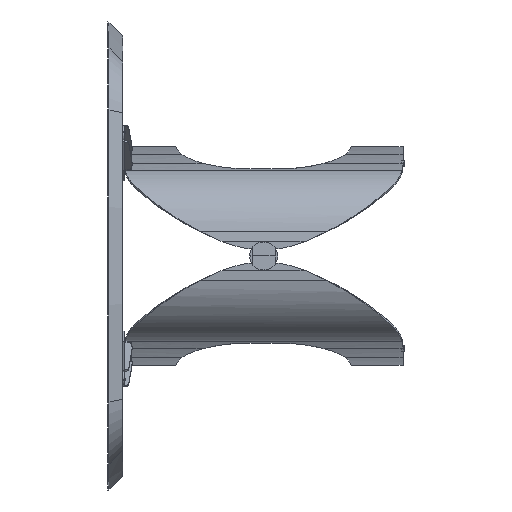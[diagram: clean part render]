
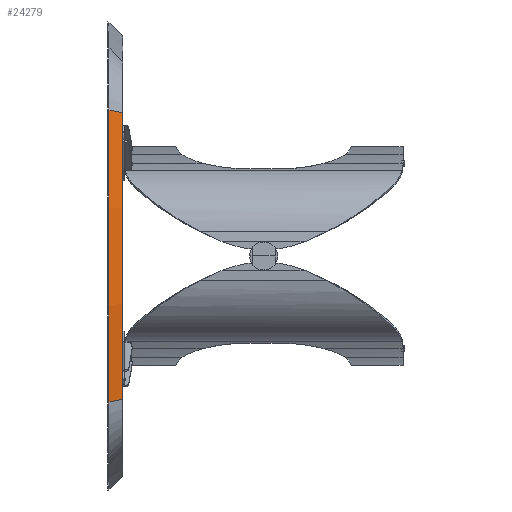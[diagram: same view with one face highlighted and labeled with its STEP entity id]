
A CAD part, left-side view. The second image highlights one B-rep face of the part: STEP entity #24279.
In plain terms, the highlighted conical face has half-angle 45 degrees and reference radius 1900 mm.
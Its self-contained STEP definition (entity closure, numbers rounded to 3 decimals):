
#133 = CARTESIAN_POINT ( 'NONE',  ( 400., 35., 0. ) ) ;
#2881 = ORIENTED_EDGE ( 'NONE', *, *, #17317, .T. ) ;
#3392 = ORIENTED_EDGE ( 'NONE', *, *, #16277, .F. ) ;
#3971 = CARTESIAN_POINT ( 'NONE',  ( -1428.519, 0., 367.072 ) ) ;
#4186 = AXIS2_PLACEMENT_3D ( 'NONE', #11990, #7650, #18458 ) ;
#4621 = VECTOR ( 'NONE', #23137, 1000. ) ;
#6013 = CARTESIAN_POINT ( 'NONE',  ( -1428.519, 0., -367.072 ) ) ;
#6840 = EDGE_CURVE ( 'NONE', #18212, #10293, #12470, .T. ) ;
#7204 = CARTESIAN_POINT ( 'NONE',  ( -1428.807, 0.293, -367.13 ) ) ;
#7344 = EDGE_CURVE ( 'NONE', #18212, #21552, #11794, .T. ) ;
#7650 = DIRECTION ( 'NONE',  ( 0., 1., 0. ) ) ;
#9367 = CONICAL_SURFACE ( 'NONE', #25035, 1900., 0.785 ) ;
#10293 = VERTEX_POINT ( 'NONE', #14355 ) ;
#11492 = CIRCLE ( 'NONE', #21361, 1900. ) ;
#11794 = CIRCLE ( 'NONE', #4186, 1865.293 ) ;
#11990 = CARTESIAN_POINT ( 'NONE',  ( 400., 0.293, 0. ) ) ;
#12470 = LINE ( 'NONE', #6013, #4621 ) ;
#12517 = DIRECTION ( 'NONE',  ( -0.693, 0.707, 0.139 ) ) ;
#12578 = CARTESIAN_POINT ( 'NONE',  ( 400., 35., 0. ) ) ;
#12895 = DIRECTION ( 'NONE',  ( 0., 1., 0. ) ) ;
#14355 = CARTESIAN_POINT ( 'NONE',  ( -1462.835, 35., -373.961 ) ) ;
#16277 = EDGE_CURVE ( 'NONE', #10293, #25647, #11492, .T. ) ;
#16951 = DIRECTION ( 'NONE',  ( 0., 1., 0. ) ) ;
#17236 = FACE_OUTER_BOUND ( 'NONE', #19562, .T. ) ;
#17317 = EDGE_CURVE ( 'NONE', #21552, #25647, #23186, .T. ) ;
#18212 = VERTEX_POINT ( 'NONE', #7204 ) ;
#18360 = CARTESIAN_POINT ( 'NONE',  ( -1462.835, 35., 373.961 ) ) ;
#18458 = DIRECTION ( 'NONE',  ( 0., 0., 1. ) ) ;
#19562 = EDGE_LOOP ( 'NONE', ( #26942, #23422, #2881, #3392 ) ) ;
#19772 = DIRECTION ( 'NONE',  ( 0., 0., 1. ) ) ;
#21361 = AXIS2_PLACEMENT_3D ( 'NONE', #133, #12895, #19772 ) ;
#21552 = VERTEX_POINT ( 'NONE', #25952 ) ;
#21852 = VECTOR ( 'NONE', #12517, 1000. ) ;
#23137 = DIRECTION ( 'NONE',  ( -0.693, 0.707, -0.139 ) ) ;
#23186 = LINE ( 'NONE', #3971, #21852 ) ;
#23422 = ORIENTED_EDGE ( 'NONE', *, *, #7344, .T. ) ;
#23524 = DIRECTION ( 'NONE',  ( 0., 0., 1. ) ) ;
#24279 = ADVANCED_FACE ( 'NONE', ( #17236 ), #9367, .T. ) ;
#25035 = AXIS2_PLACEMENT_3D ( 'NONE', #12578, #16951, #23524 ) ;
#25647 = VERTEX_POINT ( 'NONE', #18360 ) ;
#25952 = CARTESIAN_POINT ( 'NONE',  ( -1428.807, 0.293, 367.13 ) ) ;
#26942 = ORIENTED_EDGE ( 'NONE', *, *, #6840, .F. ) ;
